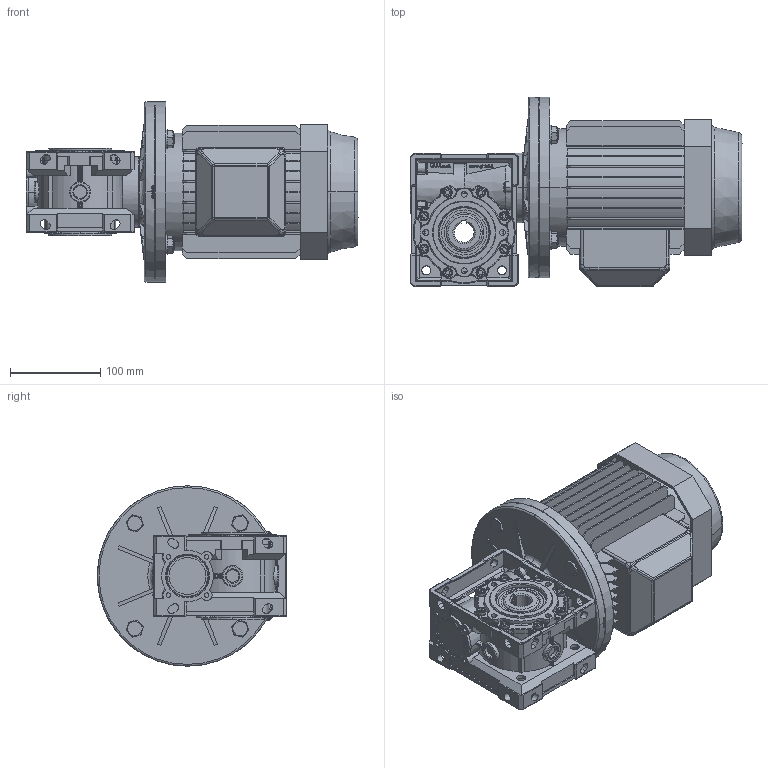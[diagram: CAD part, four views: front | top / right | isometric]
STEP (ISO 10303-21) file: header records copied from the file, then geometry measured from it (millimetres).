
FILE_DESCRIPTION((''),'2;1');
FILE_NAME('\\Gmtech3\usr\3D\MV_V\50\STP\MV50_B5-80.stp','2005-06-20T14:26:51',('tech2'),(''),'Autodesk Inventor 9','Autodesk Inventor 9','');
FILE_SCHEMA(('AUTOMOTIVE_DESIGN { 1 0 10303 214 1 1 1 1 }'));
Length unit declared in the file: millimetre
Products named in the file (16): MV50_B5-80; 4005001-A0; 4005008-A0 mozzo; 4005004-A0; Capp-47-7; Paraolio-30-55-7; Paraolio-40-56-7; TCCE-6X16-ribassata; Tappo-3-8-gas-nero; Guarnizione-tappo-3-8-gas; motori B5 80; FM-40-50-D=200; UNI 5739  (Filetto regolare) M10 x 30; UNI 5589  (Filetto regolare) M10; UNI 6593 11 x 21
Assembly tree (32 placements, depth 3):
  MV50_B5-80
    4005001-A0
    4005008-A0 mozzo
    4005004-A0
    Capp-47-7
    Paraolio-30-55-7
    Paraolio-40-56-7  x2
    TCCE-6X16-ribassata  x8
    Tappo-3-8-gas-nero
    Guarnizione-tappo-3-8-gas
    motori B5 80
    FM-40-50-D=200
      FM-40-50-D=200
      UNI 5739  (Filetto regolare) M10 x 30  x4
      UNI 5589  (Filetto regolare) M10  x4
      UNI 6593 11 x 21  x4
Bounding box: 368 x 210 x 200 mm (x, y, z)
Volume: 4937180.3 mm3; surface area: 661668.8 mm2
Topology: 31 solids, 33 shells, 3648 faces, 9546 edges, 6108 vertices
Faces by surface type: plane 1269, cylinder 1196, bspline 755, cone 274, torus 146, sphere 8
Entity records: 121136 total; most frequent: CARTESIAN_POINT 41164, ORIENTED_EDGE 17340, DIRECTION 16046, EDGE_CURVE 8670, AXIS2_PLACEMENT_3D 5832, VERTEX_POINT 5606, VECTOR 4382, LINE 4382
